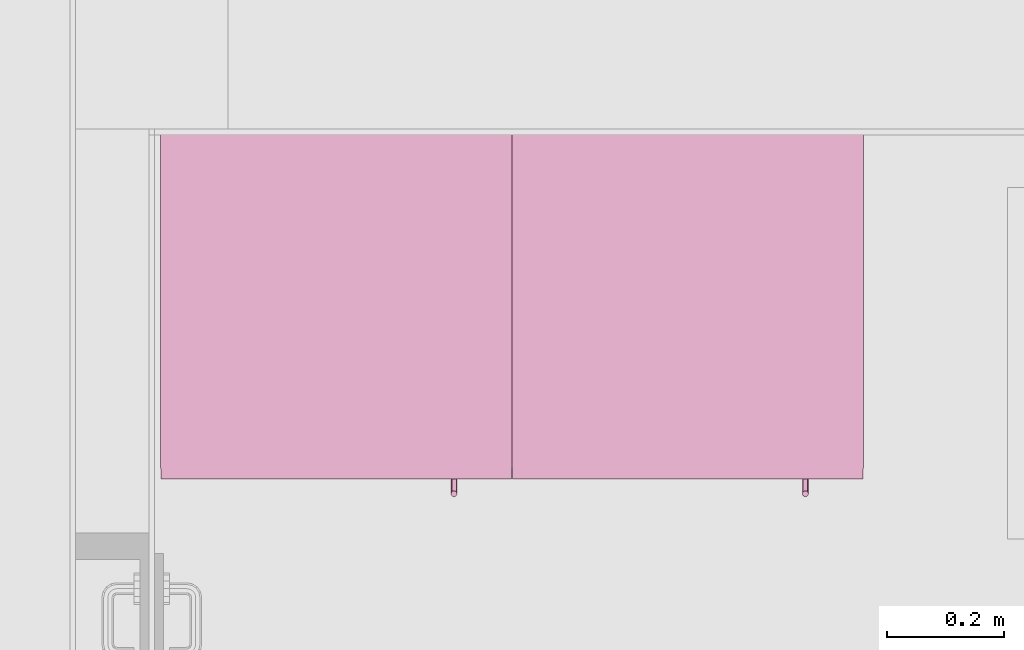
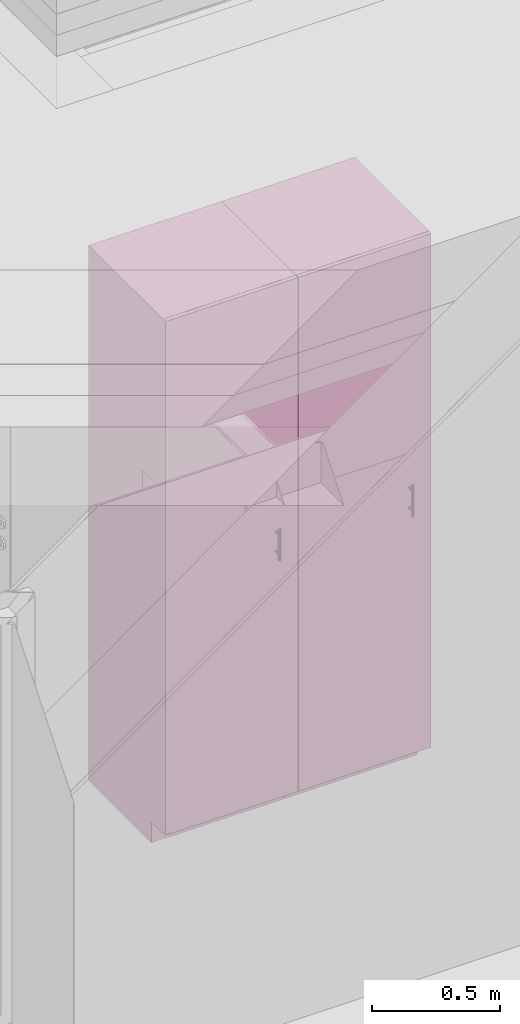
# One storey, part 33 of 36: 2 furniture elements.
"""IFC4 building model written with IfcOpenShell, lengths in millimetres."""

from ifc_helpers import new_model, entity, si_unit, converted_unit, derived_unit, direction, frame, origin_with_axes, place, context, subcontext, project, spatial, polygons, source, transform, mapped, type_object, element, save


model = new_model("IFC4")

# Units and contexts
model_context = context("Model", 3, precision=0.01, world=origin_with_axes(), true_north=direction((0.0, 1.0)))
body_context = subcontext(model_context, "Body", "Model", "MODEL_VIEW")
ifc_project = project(units=[si_unit("LENGTHUNIT", "METRE", prefix="MILLI"), si_unit("AREAUNIT", "SQUARE_METRE"), si_unit("VOLUMEUNIT", "CUBIC_METRE"), converted_unit("PLANEANGLEUNIT", "DEGREE", entity("IfcPlaneAngleMeasure", 0.0174532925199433), si_unit("PLANEANGLEUNIT", "RADIAN"), dimensions=[0, 0, 0, 0, 0, 0, 0]), converted_unit("TIMEUNIT", "Year", entity("IfcTimeMeasure", 31557600.0), si_unit("TIMEUNIT", "SECOND"), dimensions=[0, 0, 1, 0, 0, 0, 0]), si_unit("MASSUNIT", "GRAM", prefix="KILO"), si_unit("THERMODYNAMICTEMPERATUREUNIT", "DEGREE_CELSIUS"), si_unit("LUMINOUSINTENSITYUNIT", "LUMEN"), si_unit("ENERGYUNIT", "JOULE", prefix="MEGA"), derived_unit("THERMALCONDUCTANCEUNIT", [(si_unit("POWERUNIT", "WATT"), 1), (si_unit("LENGTHUNIT", "METRE"), -1), (si_unit("THERMODYNAMICTEMPERATUREUNIT", "KELVIN"), -1)]), derived_unit("SPECIFICHEATCAPACITYUNIT", [(si_unit("ENERGYUNIT", "JOULE"), 1), (si_unit("MASSUNIT", "GRAM", prefix="KILO"), -1), (si_unit("THERMODYNAMICTEMPERATUREUNIT", "KELVIN"), -1)]), derived_unit("MASSDENSITYUNIT", [(si_unit("MASSUNIT", "GRAM", prefix="KILO"), 1), (si_unit("VOLUMEUNIT", "CUBIC_METRE"), -1)])], contexts=[model_context])

# Site, building, storey
site_placement = place(None, origin_with_axes())
site = spatial("IfcSite", under=ifc_project, at=site_placement, Name="Gelände", CompositionType="ELEMENT")
building_placement = place(site_placement, origin_with_axes())
building = spatial("IfcBuilding", under=site, at=building_placement, Name="Gebäude", CompositionType="ELEMENT")
storey_placement = place(building_placement, frame((0.0, 0.0, 8700.0), z_axis=(0.0, 0.0, 1.0), x_axis=(1.0, 0.0, 0.0)))
storey = spatial("IfcBuildingStorey", under=building, at=storey_placement, Name="Attika", CompositionType="ELEMENT", Elevation=8700.0)

# Furniture
furniture_type = type_object("IfcFurnitureType", Name="Stehender Schrank Block 27", AssemblyPlace="NOTDEFINED", PredefinedType="NOTDEFINED")
shared_shape = source(origin_with_axes(), body_context, "Body", "Tessellation", [
    polygons([(501.8682408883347, -597.9999999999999, 1377.799012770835), (502.7101007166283, -597.9999999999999, 1377.573437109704), (503.4999999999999, -597.9999999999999, 1377.205101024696), (504.2139380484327, -597.9999999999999, 1376.705196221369), (504.8302222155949, -597.9999999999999, 1376.088912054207), (505.3301270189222, -597.9999999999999, 1375.374974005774), (505.6984631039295, -597.9999999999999, 1374.585074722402), (505.924038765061, -597.9999999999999, 1373.743214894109), (506.0, -597.9999999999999, 1372.874974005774), (505.924038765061, -597.9999999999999, 1372.00673311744), (505.6984631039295, -597.9999999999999, 1371.164873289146), (505.3301270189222, -597.9999999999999, 1370.374974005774), (504.8302222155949, -597.9999999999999, 1369.661035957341), (504.2139380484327, -597.9999999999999, 1369.044751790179), (503.4999999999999, -597.9999999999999, 1368.544846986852), (502.7101007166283, -597.9999999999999, 1368.176510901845), (501.8682408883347, -597.9999999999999, 1367.950935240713), (501.0, -597.9999999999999, 1367.874974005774), (500.1317591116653, -597.9999999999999, 1367.950935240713), (499.2898992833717, -597.9999999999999, 1368.176510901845), (498.5, -597.9999999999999, 1368.544846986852), (497.7860619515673, -597.9999999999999, 1369.044751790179), (497.1697777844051, -597.9999999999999, 1369.661035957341), (496.6698729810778, -597.9999999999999, 1370.374974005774), (496.3015368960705, -597.9999999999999, 1371.164873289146), (496.075961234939, -597.9999999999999, 1372.00673311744), (496.0, -597.9999999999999, 1372.874974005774), (496.075961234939, -597.9999999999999, 1373.743214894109), (496.3015368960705, -597.9999999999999, 1374.585074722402), (496.6698729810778, -597.9999999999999, 1375.374974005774), (497.1697777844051, -597.9999999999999, 1376.088912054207), (497.7860619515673, -597.9999999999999, 1376.705196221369), (498.5, -597.9999999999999, 1377.205101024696), (499.2898992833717, -597.9999999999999, 1377.573437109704), (500.1317591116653, -597.9999999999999, 1377.799012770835), (501.0, -597.9999999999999, 1377.874974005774), (501.8682408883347, -622.9999999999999, 1377.799012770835), (502.7101007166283, -622.9999999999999, 1377.573437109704), (503.4999999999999, -622.9999999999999, 1377.205101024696), (504.2139380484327, -622.9999999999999, 1376.705196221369), (504.8302222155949, -622.9999999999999, 1376.088912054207), (505.3301270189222, -622.9999999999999, 1375.374974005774), (505.6984631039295, -622.9999999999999, 1374.585074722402), (505.924038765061, -622.9999999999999, 1373.743214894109), (506.0, -622.9999999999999, 1372.874974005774), (505.924038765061, -622.9999999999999, 1372.00673311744), (505.6984631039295, -622.9999999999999, 1371.164873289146), (505.3301270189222, -622.9999999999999, 1370.374974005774), (504.8302222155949, -622.9999999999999, 1369.661035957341), (504.2139380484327, -622.9999999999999, 1369.044751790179), (503.4999999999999, -622.9999999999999, 1368.544846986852), (502.7101007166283, -622.9999999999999, 1368.176510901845), (501.8682408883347, -622.9999999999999, 1367.950935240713), (501.0, -622.9999999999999, 1367.874974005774), (500.1317591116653, -622.9999999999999, 1367.950935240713), (499.2898992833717, -622.9999999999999, 1368.176510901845), (498.5, -622.9999999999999, 1368.544846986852), (497.7860619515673, -622.9999999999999, 1369.044751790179), (497.1697777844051, -622.9999999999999, 1369.661035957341), (496.6698729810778, -622.9999999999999, 1370.374974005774), (496.3015368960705, -622.9999999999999, 1371.164873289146), (496.075961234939, -622.9999999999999, 1372.00673311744), (496.0, -622.9999999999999, 1372.874974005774), (496.075961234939, -622.9999999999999, 1373.743214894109), (496.3015368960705, -622.9999999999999, 1374.585074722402), (496.6698729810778, -622.9999999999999, 1375.374974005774), (497.1697777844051, -622.9999999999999, 1376.088912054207), (497.7860619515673, -622.9999999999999, 1376.705196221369), (498.5, -622.9999999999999, 1377.205101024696), (499.2898992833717, -622.9999999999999, 1377.573437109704), (500.1317591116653, -622.9999999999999, 1377.799012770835), (501.0, -622.9999999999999, 1377.874974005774)], [[[1, 2, 3, 4, 5, 6, 7, 8, 9, 10, 11, 12, 13, 14, 15, 16, 17, 18, 19, 20, 21, 22, 23, 24, 25, 26, 27, 28, 29, 30, 31, 32, 33, 34, 35, 36]], [[2, 1, 37, 38]], [[3, 2, 38, 39]], [[4, 3, 39, 40]], [[5, 4, 40, 41]], [[6, 5, 41, 42]], [[7, 6, 42, 43]], [[8, 7, 43, 44]], [[9, 8, 44, 45]], [[10, 9, 45, 46]], [[11, 10, 46, 47]], [[12, 11, 47, 48]], [[13, 12, 48, 49]], [[14, 13, 49, 50]], [[15, 14, 50, 51]], [[16, 15, 51, 52]], [[17, 16, 52, 53]], [[18, 17, 53, 54]], [[19, 18, 54, 55]], [[20, 19, 55, 56]], [[21, 20, 56, 57]], [[22, 21, 57, 58]], [[23, 22, 58, 59]], [[24, 23, 59, 60]], [[25, 24, 60, 61]], [[26, 25, 61, 62]], [[27, 26, 62, 63]], [[28, 27, 63, 64]], [[29, 28, 64, 65]], [[30, 29, 65, 66]], [[31, 30, 66, 67]], [[32, 31, 67, 68]], [[33, 32, 68, 69]], [[34, 33, 69, 70]], [[35, 34, 70, 71]], [[36, 35, 71, 72]], [[1, 36, 72, 37]], [[37, 72, 71, 70, 69, 68, 67, 66, 65, 64, 63, 62, 61, 60, 59, 58, 57, 56, 55, 54, 53, 52, 51, 50, 49, 48, 47, 46, 45, 44, 43, 42, 41, 40, 39, 38]]], closed=True),
    polygons([(501.8682408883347, -597.9999999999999, 1274.200935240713), (501.0, -597.9999999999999, 1274.124974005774), (500.1317591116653, -597.9999999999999, 1274.200935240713), (499.2898992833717, -597.9999999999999, 1274.426510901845), (498.5, -597.9999999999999, 1274.794846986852), (497.7860619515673, -597.9999999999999, 1275.294751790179), (497.1697777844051, -597.9999999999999, 1275.911035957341), (496.6698729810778, -597.9999999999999, 1276.624974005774), (496.3015368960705, -597.9999999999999, 1277.414873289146), (496.075961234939, -597.9999999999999, 1278.25673311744), (496.0, -597.9999999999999, 1279.124974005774), (496.075961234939, -597.9999999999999, 1279.993214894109), (496.3015368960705, -597.9999999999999, 1280.835074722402), (496.6698729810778, -597.9999999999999, 1281.624974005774), (497.1697777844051, -597.9999999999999, 1282.338912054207), (497.7860619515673, -597.9999999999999, 1282.955196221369), (498.5, -597.9999999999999, 1283.455101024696), (499.2898992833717, -597.9999999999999, 1283.823437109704), (500.1317591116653, -597.9999999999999, 1284.049012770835), (501.0, -597.9999999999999, 1284.124974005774), (501.8682408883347, -597.9999999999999, 1284.049012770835), (502.7101007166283, -597.9999999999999, 1283.823437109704), (503.4999999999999, -597.9999999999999, 1283.455101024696), (504.2139380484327, -597.9999999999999, 1282.955196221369), (504.8302222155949, -597.9999999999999, 1282.338912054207), (505.3301270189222, -597.9999999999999, 1281.624974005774), (505.6984631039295, -597.9999999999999, 1280.835074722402), (505.924038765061, -597.9999999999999, 1279.993214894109), (506.0, -597.9999999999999, 1279.124974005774), (505.924038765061, -597.9999999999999, 1278.25673311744), (505.6984631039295, -597.9999999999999, 1277.414873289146), (505.3301270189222, -597.9999999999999, 1276.624974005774), (504.8302222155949, -597.9999999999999, 1275.911035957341), (504.2139380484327, -597.9999999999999, 1275.294751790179), (503.4999999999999, -597.9999999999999, 1274.794846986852), (502.7101007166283, -597.9999999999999, 1274.426510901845), (501.8682408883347, -622.9999999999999, 1274.200935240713), (501.0, -622.9999999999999, 1274.124974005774), (500.1317591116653, -622.9999999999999, 1274.200935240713), (499.2898992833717, -622.9999999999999, 1274.426510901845), (498.5, -622.9999999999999, 1274.794846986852), (497.7860619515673, -622.9999999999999, 1275.294751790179), (497.1697777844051, -622.9999999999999, 1275.911035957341), (496.6698729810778, -622.9999999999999, 1276.624974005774), (496.3015368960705, -622.9999999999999, 1277.414873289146), (496.075961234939, -622.9999999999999, 1278.25673311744), (496.0, -622.9999999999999, 1279.124974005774), (496.075961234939, -622.9999999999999, 1279.993214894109), (496.3015368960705, -622.9999999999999, 1280.835074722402), (496.6698729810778, -622.9999999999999, 1281.624974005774), (497.1697777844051, -622.9999999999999, 1282.338912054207), (497.7860619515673, -622.9999999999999, 1282.955196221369), (498.5, -622.9999999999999, 1283.455101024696), (499.2898992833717, -622.9999999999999, 1283.823437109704), (500.1317591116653, -622.9999999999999, 1284.049012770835), (501.0, -622.9999999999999, 1284.124974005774), (501.8682408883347, -622.9999999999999, 1284.049012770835), (502.7101007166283, -622.9999999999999, 1283.823437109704), (503.4999999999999, -622.9999999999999, 1283.455101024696), (504.2139380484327, -622.9999999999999, 1282.955196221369), (504.8302222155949, -622.9999999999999, 1282.338912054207), (505.3301270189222, -622.9999999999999, 1281.624974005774), (505.6984631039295, -622.9999999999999, 1280.835074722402), (505.924038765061, -622.9999999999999, 1279.993214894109), (506.0, -622.9999999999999, 1279.124974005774), (505.924038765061, -622.9999999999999, 1278.25673311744), (505.6984631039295, -622.9999999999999, 1277.414873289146), (505.3301270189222, -622.9999999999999, 1276.624974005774), (504.8302222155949, -622.9999999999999, 1275.911035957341), (504.2139380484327, -622.9999999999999, 1275.294751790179), (503.4999999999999, -622.9999999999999, 1274.794846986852), (502.7101007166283, -622.9999999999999, 1274.426510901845)], [[[1, 2, 3, 4, 5, 6, 7, 8, 9, 10, 11, 12, 13, 14, 15, 16, 17, 18, 19, 20, 21, 22, 23, 24, 25, 26, 27, 28, 29, 30, 31, 32, 33, 34, 35, 36]], [[1, 37, 38, 2]], [[2, 38, 39, 3]], [[3, 39, 40, 4]], [[4, 40, 41, 5]], [[5, 41, 42, 6]], [[6, 42, 43, 7]], [[7, 43, 44, 8]], [[8, 44, 45, 9]], [[9, 45, 46, 10]], [[10, 46, 47, 11]], [[11, 47, 48, 12]], [[12, 48, 49, 13]], [[13, 49, 50, 14]], [[14, 50, 51, 15]], [[15, 51, 52, 16]], [[16, 52, 53, 17]], [[17, 53, 54, 18]], [[18, 54, 55, 19]], [[19, 55, 56, 20]], [[20, 56, 57, 21]], [[21, 57, 58, 22]], [[22, 58, 59, 23]], [[23, 59, 60, 24]], [[24, 60, 61, 25]], [[25, 61, 62, 26]], [[26, 62, 63, 27]], [[27, 63, 64, 28]], [[28, 64, 65, 29]], [[29, 65, 66, 30]], [[30, 66, 67, 31]], [[31, 67, 68, 32]], [[32, 68, 69, 33]], [[33, 69, 70, 34]], [[34, 70, 71, 35]], [[35, 71, 72, 36]], [[36, 72, 37, 1]], [[37, 72, 71, 70, 69, 68, 67, 66, 65, 64, 63, 62, 61, 60, 59, 58, 57, 56, 55, 54, 53, 52, 51, 50, 49, 48, 47, 46, 45, 44, 43, 42, 41, 40, 39, 38]]], closed=True),
    polygons([(501.8682408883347, -618.0759612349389, 1250.999974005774), (502.7101007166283, -618.3015368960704, 1250.999974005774), (503.4999999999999, -618.6698729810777, 1250.999974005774), (504.2139380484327, -619.1697777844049, 1250.999974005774), (504.8302222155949, -619.7860619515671, 1250.999974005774), (505.3301270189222, -620.4999999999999, 1250.999974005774), (505.6984631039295, -621.2898992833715, 1250.999974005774), (505.924038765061, -622.1317591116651, 1250.999974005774), (506.0, -622.9999999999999, 1250.999974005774), (505.924038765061, -623.8682408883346, 1250.999974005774), (505.6984631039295, -624.7101007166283, 1250.999974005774), (505.3301270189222, -625.4999999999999, 1250.999974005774), (504.8302222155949, -626.2139380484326, 1250.999974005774), (504.2139380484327, -626.8302222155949, 1250.999974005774), (503.4999999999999, -627.3301270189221, 1250.999974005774), (502.7101007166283, -627.6984631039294, 1250.999974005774), (501.8682408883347, -627.924038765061, 1250.999974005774), (501.0, -627.9999999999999, 1250.999974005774), (500.1317591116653, -627.924038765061, 1250.999974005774), (499.2898992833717, -627.6984631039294, 1250.999974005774), (498.5, -627.3301270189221, 1250.999974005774), (497.7860619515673, -626.8302222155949, 1250.999974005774), (497.1697777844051, -626.2139380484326, 1250.999974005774), (496.6698729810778, -625.4999999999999, 1250.999974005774), (496.3015368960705, -624.7101007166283, 1250.999974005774), (496.075961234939, -623.8682408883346, 1250.999974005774), (496.0, -622.9999999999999, 1250.999974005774), (496.075961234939, -622.1317591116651, 1250.999974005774), (496.3015368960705, -621.2898992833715, 1250.999974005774), (496.6698729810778, -620.4999999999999, 1250.999974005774), (497.1697777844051, -619.7860619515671, 1250.999974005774), (497.7860619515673, -619.1697777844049, 1250.999974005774), (498.5, -618.6698729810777, 1250.999974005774), (499.2898992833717, -618.3015368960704, 1250.999974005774), (500.1317591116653, -618.0759612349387, 1250.999974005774), (501.0, -617.9999999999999, 1250.999974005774), (501.8682408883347, -618.0759612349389, 1400.999974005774), (502.7101007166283, -618.3015368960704, 1400.999974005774), (503.5000000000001, -618.6698729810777, 1400.999974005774), (504.2139380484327, -619.1697777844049, 1400.999974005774), (504.8302222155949, -619.7860619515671, 1400.999974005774), (505.3301270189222, -620.4999999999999, 1400.999974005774), (505.6984631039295, -621.2898992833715, 1400.999974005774), (505.9240387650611, -622.1317591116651, 1400.999974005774), (506.0, -622.9999999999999, 1400.999974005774), (505.9240387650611, -623.8682408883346, 1400.999974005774), (505.6984631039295, -624.7101007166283, 1400.999974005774), (505.3301270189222, -625.4999999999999, 1400.999974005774), (504.8302222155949, -626.2139380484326, 1400.999974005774), (504.2139380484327, -626.8302222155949, 1400.999974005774), (503.5000000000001, -627.3301270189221, 1400.999974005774), (502.7101007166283, -627.6984631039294, 1400.999974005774), (501.8682408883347, -627.924038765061, 1400.999974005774), (501.0, -627.9999999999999, 1400.999974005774), (500.1317591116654, -627.924038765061, 1400.999974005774), (499.2898992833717, -627.6984631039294, 1400.999974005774), (498.5, -627.3301270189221, 1400.999974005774), (497.7860619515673, -626.8302222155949, 1400.999974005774), (497.1697777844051, -626.2139380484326, 1400.999974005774), (496.6698729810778, -625.4999999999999, 1400.999974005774), (496.3015368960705, -624.7101007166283, 1400.999974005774), (496.075961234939, -623.8682408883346, 1400.999974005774), (496.0, -622.9999999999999, 1400.999974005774), (496.075961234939, -622.1317591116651, 1400.999974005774), (496.3015368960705, -621.2898992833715, 1400.999974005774), (496.6698729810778, -620.4999999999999, 1400.999974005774), (497.1697777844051, -619.7860619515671, 1400.999974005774), (497.7860619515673, -619.1697777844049, 1400.999974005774), (498.5, -618.6698729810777, 1400.999974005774), (499.2898992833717, -618.3015368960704, 1400.999974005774), (500.1317591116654, -618.0759612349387, 1400.999974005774), (501.0, -617.9999999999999, 1400.999974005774)], [[[1, 2, 3, 4, 5, 6, 7, 8, 9, 10, 11, 12, 13, 14, 15, 16, 17, 18, 19, 20, 21, 22, 23, 24, 25, 26, 27, 28, 29, 30, 31, 32, 33, 34, 35, 36]], [[2, 1, 37, 38]], [[3, 2, 38, 39]], [[4, 3, 39, 40]], [[5, 4, 40, 41]], [[6, 5, 41, 42]], [[7, 6, 42, 43]], [[8, 7, 43, 44]], [[9, 8, 44, 45]], [[10, 9, 45, 46]], [[11, 10, 46, 47]], [[12, 11, 47, 48]], [[13, 12, 48, 49]], [[14, 13, 49, 50]], [[15, 14, 50, 51]], [[16, 15, 51, 52]], [[17, 16, 52, 53]], [[18, 17, 53, 54]], [[19, 18, 54, 55]], [[20, 19, 55, 56]], [[21, 20, 56, 57]], [[22, 21, 57, 58]], [[23, 22, 58, 59]], [[24, 23, 59, 60]], [[25, 24, 60, 61]], [[26, 25, 61, 62]], [[27, 26, 62, 63]], [[28, 27, 63, 64]], [[29, 28, 64, 65]], [[30, 29, 65, 66]], [[31, 30, 66, 67]], [[32, 31, 67, 68]], [[33, 32, 68, 69]], [[34, 33, 69, 70]], [[35, 34, 70, 71]], [[36, 35, 71, 72]], [[1, 36, 72, 37]], [[37, 72, 71, 70, 69, 68, 67, 66, 65, 64, 63, 62, 61, 60, 59, 58, 57, 56, 55, 54, 53, 52, 51, 50, 49, 48, 47, 46, 45, 44, 43, 42, 41, 40, 39, 38]]], closed=True),
    polygons([(1.0, -580.0, 101.0), (599.0, -580.0, 101.0), (599.0, -598.0, 101.0), (1.0, -598.0, 101.0), (1.0, -579.9999999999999, 2548.999948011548), (599.0, -579.9999999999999, 2548.999948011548), (599.0, -597.9999999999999, 2548.999948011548), (1.0, -597.9999999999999, 2548.999948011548)], [[[1, 2, 3, 4]], [[1, 5, 6, 2]], [[2, 6, 7, 3]], [[4, 3, 7, 8]], [[5, 1, 4, 8]], [[6, 5, 8, 7]]], closed=True),
    polygons([(18.0, -580.0, 100.0), (582.0, -580.0, 100.0), (582.0, -580.0, 118.0), (18.0, -580.0, 118.0), (18.0, 0.0, 100.0), (582.0, 0.0, 100.0), (582.0, 0.0, 118.0), (18.0, 0.0, 118.0)], [[[1, 2, 3, 4]], [[1, 5, 6, 2]], [[2, 6, 7, 3]], [[4, 3, 7, 8]], [[5, 1, 4, 8]], [[6, 5, 8, 7]]], closed=True),
    polygons([(18.0, -580.0, 2531.999948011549), (582.0, -580.0, 2531.999948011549), (582.0, -580.0, 2549.999948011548), (18.0, -580.0, 2549.999948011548), (18.0, 0.0, 2531.999948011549), (582.0, 0.0, 2531.999948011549), (582.0, 0.0, 2549.999948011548), (18.0, 0.0, 2549.999948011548)], [[[1, 2, 3, 4]], [[1, 5, 6, 2]], [[2, 6, 7, 3]], [[4, 3, 7, 8]], [[5, 1, 4, 8]], [[6, 5, 8, 7]]], closed=True),
    polygons([(0.0, 0.0, 100.0), (0.0, -580.0, 100.0), (0.0, -580.0, 2549.999948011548), (0.0, 0.0, 2549.999948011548), (18.0, 0.0, 100.0), (18.0, -580.0, 100.0), (18.0, -580.0, 2549.999948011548), (18.0, 0.0, 2549.999948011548)], [[[1, 2, 3, 4]], [[1, 5, 6, 2]], [[2, 6, 7, 3]], [[4, 3, 7, 8]], [[5, 1, 4, 8]], [[6, 5, 8, 7]]], closed=True),
    polygons([(600.0, -580.0, 100.0), (600.0, 0.0, 100.0), (600.0, 0.0, 2549.999948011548), (600.0, -580.0, 2549.999948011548), (582.0, -580.0, 100.0), (582.0, 0.0, 100.0), (582.0, 0.0, 2549.999948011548), (582.0, -580.0, 2549.999948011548)], [[[1, 2, 3, 4]], [[1, 5, 6, 2]], [[2, 6, 7, 3]], [[4, 3, 7, 8]], [[5, 1, 4, 8]], [[6, 5, 8, 7]]], closed=True),
    polygons([(582.0, -9.0, 118.0), (18.00000000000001, -9.0, 118.0), (18.00000000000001, -9.0, 2531.999948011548), (582.0, -9.0, 2531.999948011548), (582.0, -18.0, 118.0), (18.00000000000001, -18.0, 118.0), (18.00000000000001, -18.0, 2531.999948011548), (582.0, -18.0, 2531.999948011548)], [[[1, 2, 3, 4]], [[1, 5, 6, 2]], [[2, 6, 7, 3]], [[4, 3, 7, 8]], [[5, 1, 4, 8]], [[6, 5, 8, 7]]], closed=True),
    polygons([(0.0, -490.0, 0.0), (600.0, -490.0, 0.0), (600.0, -490.0, 100.0), (0.0, -490.0, 100.0), (0.0, 0.0, 0.0), (600.0, 0.0, 0.0), (600.0, 0.0, 100.0), (0.0, 0.0, 100.0)], [[[1, 2, 3, 4]], [[1, 5, 6, 2]], [[2, 6, 7, 3]], [[4, 3, 7, 8]], [[5, 1, 4, 8]], [[6, 5, 8, 7]]], closed=True),
])
for number, where, z_axis, x_axis in (
    (1, (15573.99744477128, 27947.59728131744, 150.0000000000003), (0.0, 0.0, 1.0), (1.0, 0.0, 0.0)),
    (2, (16173.99744477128, 27947.59728131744, 150.0000000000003), (0.0, 0.0, 1.0), (1.0, 0.0, 0.0)),
):
    element("IfcFurniture", number, at=place(storey_placement, frame(where, z_axis=z_axis, x_axis=x_axis)), inside=storey, type_object=furniture_type, Name="Möbel-021", PredefinedType="NOTDEFINED", context=body_context, shape_type="MappedRepresentation", body=[
        mapped(shared_shape, transform((0.0, 0.0, 0.0))),
    ])

save(model, "model.ifc")
